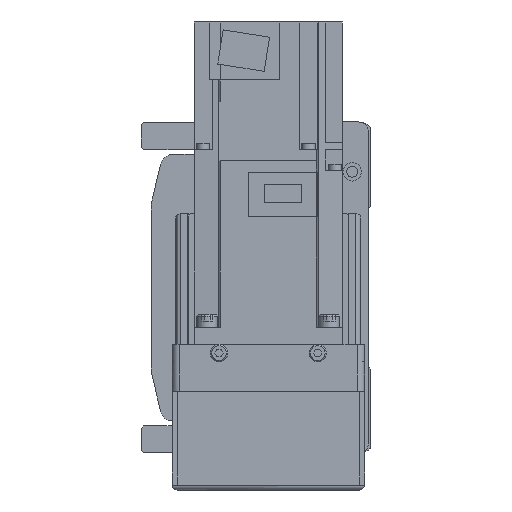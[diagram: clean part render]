
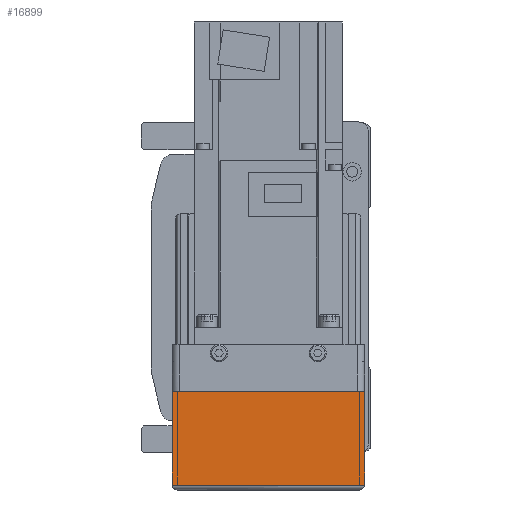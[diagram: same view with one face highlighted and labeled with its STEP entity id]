
A CAD part, left-side view. The second image highlights one B-rep face of the part: STEP entity #16899.
In plain terms, the highlighted planar face has unit normal (-1, 0, 0).
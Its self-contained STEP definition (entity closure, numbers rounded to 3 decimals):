
#2540=ORIENTED_EDGE('',*,*,#6813,.F.);
#2541=ORIENTED_EDGE('',*,*,#6814,.F.);
#2542=ORIENTED_EDGE('',*,*,#6815,.T.);
#2543=ORIENTED_EDGE('',*,*,#6816,.F.);
#6813=EDGE_CURVE('',#9048,#9039,#10793,.T.);
#6814=EDGE_CURVE('',#9065,#9048,#10794,.T.);
#6815=EDGE_CURVE('',#9065,#9066,#10795,.T.);
#6816=EDGE_CURVE('',#9039,#9066,#10796,.T.);
#9039=VERTEX_POINT('',#25976);
#9048=VERTEX_POINT('',#25994);
#9065=VERTEX_POINT('',#26042);
#9066=VERTEX_POINT('',#26044);
#10793=LINE('',#26040,#12393);
#10794=LINE('',#26041,#12394);
#10795=LINE('',#26043,#12395);
#10796=LINE('',#26045,#12396);
#12393=VECTOR('',#20845,1000.);
#12394=VECTOR('',#20846,1000.);
#12395=VECTOR('',#20847,1000.);
#12396=VECTOR('',#20848,1000.);
#13825=EDGE_LOOP('',(#2540,#2541,#2542,#2543));
#15085=FACE_BOUND('',#13825,.T.);
#16186=PLANE('',#18109);
#16899=ADVANCED_FACE('',(#15085),#16186,.F.);
#18109=AXIS2_PLACEMENT_3D('',#26039,#20843,#20844);
#20843=DIRECTION('',(1.,0.,0.));
#20844=DIRECTION('',(0.,0.,-1.));
#20845=DIRECTION('',(0.,-1.,0.));
#20846=DIRECTION('',(0.,0.,1.));
#20847=DIRECTION('',(0.,-1.,0.));
#20848=DIRECTION('',(0.,0.,-1.));
#25976=CARTESIAN_POINT('',(-158.,-39.,-12.1));
#25994=CARTESIAN_POINT('',(-158.,39.,-12.1));
#26039=CARTESIAN_POINT('',(-158.,36.,7.));
#26040=CARTESIAN_POINT('',(-158.,50.,-12.1));
#26041=CARTESIAN_POINT('',(-158.,39.,-50.));
#26042=CARTESIAN_POINT('',(-158.,39.,-50.));
#26043=CARTESIAN_POINT('',(-158.,40.,-50.));
#26044=CARTESIAN_POINT('',(-158.,-39.,-50.));
#26045=CARTESIAN_POINT('',(-158.,-39.,-12.1));
